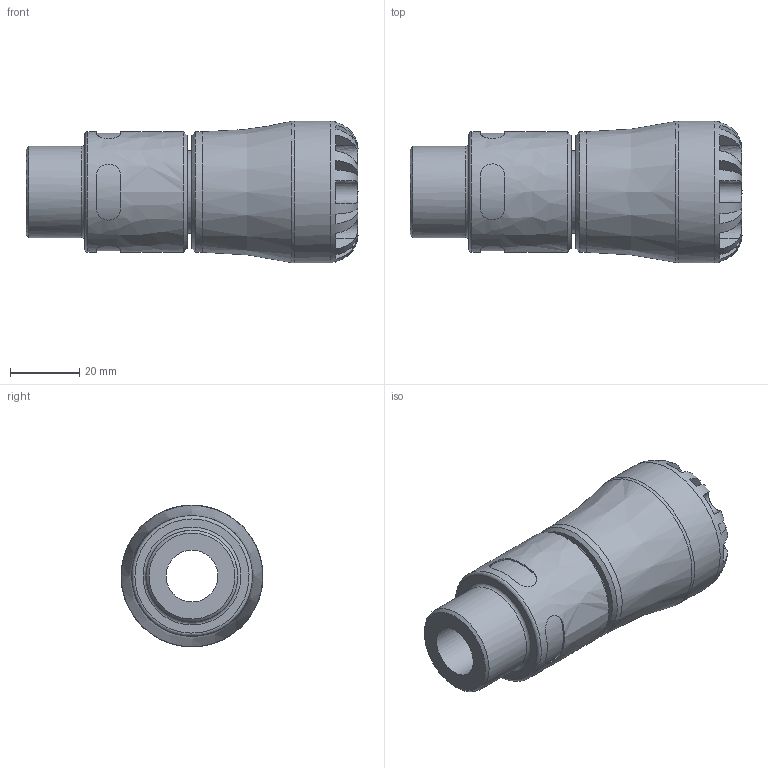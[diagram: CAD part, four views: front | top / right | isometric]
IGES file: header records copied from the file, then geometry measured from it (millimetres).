
Global section: file name: 10N200020007_10N2G0020007; native system: Autodesk Inventor 2019; preprocessor: unknown; author: KIM; date: 20240312.131900; units: millimetre
Bounding box: 96 x 41 x 40.97 mm (x, y, z)
Volume: 66718.3 mm3; surface area: 19246.6 mm2
Topology: 1 solids, 1 shells, 106 faces, 279 edges, 182 vertices
Faces by surface type: bspline 106
